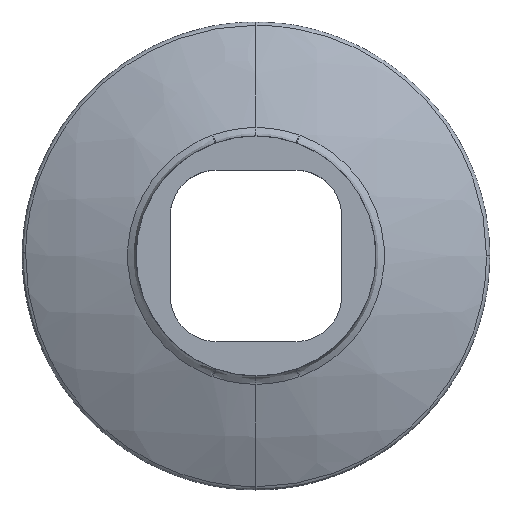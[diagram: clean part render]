
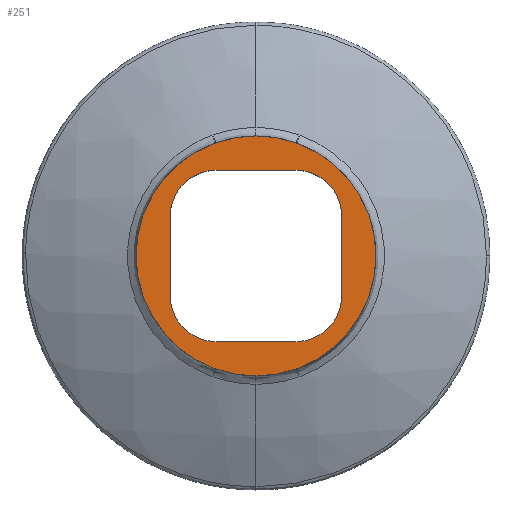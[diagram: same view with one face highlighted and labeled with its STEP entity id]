
A CAD part, top view. The second image highlights one B-rep face of the part: STEP entity #251.
In plain terms, the highlighted planar face has unit normal (0, 0, 1).
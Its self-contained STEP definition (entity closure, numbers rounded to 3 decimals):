
#132=LINE('',#2573,#156);
#138=LINE('',#2589,#162);
#142=LINE('',#2601,#166);
#146=LINE('',#2613,#170);
#156=VECTOR('',#851,1.);
#162=VECTOR('',#865,1.);
#166=VECTOR('',#877,1.);
#170=VECTOR('',#889,1.);
#189=PLANE('',#827);
#198=FACE_BOUND('',#344,.T.);
#199=FACE_BOUND('',#345,.T.);
#203=CIRCLE('',#801,4.);
#205=CIRCLE('',#805,4.);
#207=CIRCLE('',#809,4.);
#209=CIRCLE('',#813,4.);
#211=CIRCLE('',#819,10.5);
#212=CIRCLE('',#821,10.5);
#213=CIRCLE('',#823,10.5);
#214=CIRCLE('',#825,10.5);
#251=ADVANCED_FACE('',(#198,#199),#189,.T.);
#344=EDGE_LOOP('',(#476,#477,#478,#479,#480,#481,#482,#483));
#345=EDGE_LOOP('',(#484,#485,#486,#487,#488,#489,#490,#491));
#476=ORIENTED_EDGE('',*,*,#654,.F.);
#477=ORIENTED_EDGE('',*,*,#659,.F.);
#478=ORIENTED_EDGE('',*,*,#662,.F.);
#479=ORIENTED_EDGE('',*,*,#665,.F.);
#480=ORIENTED_EDGE('',*,*,#668,.F.);
#481=ORIENTED_EDGE('',*,*,#671,.F.);
#482=ORIENTED_EDGE('',*,*,#674,.F.);
#483=ORIENTED_EDGE('',*,*,#676,.F.);
#484=ORIENTED_EDGE('',*,*,#691,.F.);
#485=ORIENTED_EDGE('',*,*,#713,.F.);
#486=ORIENTED_EDGE('',*,*,#710,.F.);
#487=ORIENTED_EDGE('',*,*,#707,.F.);
#488=ORIENTED_EDGE('',*,*,#704,.F.);
#489=ORIENTED_EDGE('',*,*,#701,.F.);
#490=ORIENTED_EDGE('',*,*,#697,.F.);
#491=ORIENTED_EDGE('',*,*,#694,.F.);
#588=VERTEX_POINT('',#2571);
#590=VERTEX_POINT('',#2574);
#593=VERTEX_POINT('',#2582);
#595=VERTEX_POINT('',#2588);
#597=VERTEX_POINT('',#2594);
#599=VERTEX_POINT('',#2600);
#601=VERTEX_POINT('',#2606);
#603=VERTEX_POINT('',#2612);
#614=VERTEX_POINT('',#4093);
#616=VERTEX_POINT('',#4112);
#618=VERTEX_POINT('',#4123);
#620=VERTEX_POINT('',#4138);
#622=VERTEX_POINT('',#4165);
#625=VERTEX_POINT('',#4179);
#627=VERTEX_POINT('',#4206);
#629=VERTEX_POINT('',#4221);
#654=EDGE_CURVE('',#588,#590,#132,.T.);
#659=EDGE_CURVE('',#593,#588,#203,.T.);
#662=EDGE_CURVE('',#595,#593,#138,.T.);
#665=EDGE_CURVE('',#597,#595,#205,.T.);
#668=EDGE_CURVE('',#599,#597,#142,.T.);
#671=EDGE_CURVE('',#601,#599,#207,.T.);
#674=EDGE_CURVE('',#603,#601,#146,.T.);
#676=EDGE_CURVE('',#590,#603,#209,.T.);
#691=EDGE_CURVE('',#616,#614,#765,.T.);
#694=EDGE_CURVE('',#614,#618,#211,.T.);
#697=EDGE_CURVE('',#618,#620,#769,.T.);
#701=EDGE_CURVE('',#620,#622,#212,.T.);
#704=EDGE_CURVE('',#622,#625,#774,.T.);
#707=EDGE_CURVE('',#625,#627,#213,.T.);
#710=EDGE_CURVE('',#627,#629,#778,.T.);
#713=EDGE_CURVE('',#629,#616,#214,.T.);
#765=B_SPLINE_CURVE_WITH_KNOTS('',3,(#4113,#4114,#4115,#4116),.UNSPECIFIED.,
 .F.,.F.,(4,4),(0.,1.),.UNSPECIFIED.);
#769=B_SPLINE_CURVE_WITH_KNOTS('',3,(#4155,#4156,#4157,#4158),.UNSPECIFIED.,
 .F.,.F.,(4,4),(0.,1.),.UNSPECIFIED.);
#774=B_SPLINE_CURVE_WITH_KNOTS('',3,(#4196,#4197,#4198,#4199),.UNSPECIFIED.,
 .F.,.F.,(4,4),(0.,1.),.UNSPECIFIED.);
#778=B_SPLINE_CURVE_WITH_KNOTS('',3,(#4238,#4239,#4240,#4241),.UNSPECIFIED.,
 .F.,.F.,(4,4),(0.,1.),.UNSPECIFIED.);
#801=AXIS2_PLACEMENT_3D('',#2583,#859,#860);
#805=AXIS2_PLACEMENT_3D('',#2595,#871,#872);
#809=AXIS2_PLACEMENT_3D('',#2607,#883,#884);
#813=AXIS2_PLACEMENT_3D('',#2616,#894,#895);
#819=AXIS2_PLACEMENT_3D('',#4134,#910,#911);
#821=AXIS2_PLACEMENT_3D('',#4175,#917,#918);
#823=AXIS2_PLACEMENT_3D('',#4217,#924,#925);
#825=AXIS2_PLACEMENT_3D('',#4255,#930,#931);
#827=AXIS2_PLACEMENT_3D('',#4257,#934,#935);
#851=DIRECTION('',(-1.,0.,0.));
#859=DIRECTION('',(0.,0.,1.));
#860=DIRECTION('',(1.,0.,0.));
#865=DIRECTION('',(0.,1.,0.));
#871=DIRECTION('',(0.,0.,1.));
#872=DIRECTION('',(1.,0.,0.));
#877=DIRECTION('',(1.,0.,0.));
#883=DIRECTION('',(0.,0.,1.));
#884=DIRECTION('',(1.,0.,0.));
#889=DIRECTION('',(0.,-1.,0.));
#894=DIRECTION('',(0.,0.,1.));
#895=DIRECTION('',(1.,0.,0.));
#910=DIRECTION('',(0.,0.,-1.));
#911=DIRECTION('',(1.,0.,0.));
#917=DIRECTION('',(0.,0.,-1.));
#918=DIRECTION('',(1.,0.,0.));
#924=DIRECTION('',(0.,0.,-1.));
#925=DIRECTION('',(1.,0.,0.));
#930=DIRECTION('',(0.,0.,-1.));
#931=DIRECTION('',(1.,0.,0.));
#934=DIRECTION('',(0.,0.,1.));
#935=DIRECTION('',(1.,0.,0.));
#2571=CARTESIAN_POINT('',(93.288,72.5,53.4));
#2573=CARTESIAN_POINT('',(93.339,72.5,53.4));
#2574=CARTESIAN_POINT('',(86.288,72.5,53.4));
#2582=CARTESIAN_POINT('',(97.288,68.5,53.4));
#2583=CARTESIAN_POINT('',(93.288,68.5,53.4));
#2588=CARTESIAN_POINT('',(97.288,61.5,53.4));
#2589=CARTESIAN_POINT('',(97.288,74.882,53.4));
#2594=CARTESIAN_POINT('',(93.288,57.5,53.4));
#2595=CARTESIAN_POINT('',(93.288,61.5,53.4));
#2600=CARTESIAN_POINT('',(86.288,57.5,53.4));
#2601=CARTESIAN_POINT('',(93.339,57.5,53.4));
#2606=CARTESIAN_POINT('',(82.288,61.5,53.4));
#2607=CARTESIAN_POINT('',(86.288,61.5,53.4));
#2612=CARTESIAN_POINT('',(82.288,68.5,53.4));
#2613=CARTESIAN_POINT('',(82.288,74.882,53.4));
#2616=CARTESIAN_POINT('',(86.288,68.5,53.4));
#4093=CARTESIAN_POINT('',(93.388,74.864,53.4));
#4112=CARTESIAN_POINT('',(93.288,74.899,53.4));
#4113=CARTESIAN_POINT('',(93.288,74.899,53.4));
#4114=CARTESIAN_POINT('',(93.322,74.888,53.4));
#4115=CARTESIAN_POINT('',(93.355,74.876,53.4));
#4116=CARTESIAN_POINT('',(93.388,74.864,53.4));
#4123=CARTESIAN_POINT('',(93.388,55.136,53.4));
#4134=CARTESIAN_POINT('',(89.788,65.,53.4));
#4138=CARTESIAN_POINT('',(93.288,55.101,53.4));
#4155=CARTESIAN_POINT('',(93.388,55.136,53.4));
#4156=CARTESIAN_POINT('',(93.355,55.124,53.4));
#4157=CARTESIAN_POINT('',(93.322,55.112,53.4));
#4158=CARTESIAN_POINT('',(93.288,55.101,53.4));
#4165=CARTESIAN_POINT('',(86.288,55.101,53.4));
#4175=CARTESIAN_POINT('',(89.788,65.,53.4));
#4179=CARTESIAN_POINT('',(86.188,55.136,53.4));
#4196=CARTESIAN_POINT('',(86.288,55.101,53.4));
#4197=CARTESIAN_POINT('',(86.255,55.112,53.4));
#4198=CARTESIAN_POINT('',(86.222,55.124,53.4));
#4199=CARTESIAN_POINT('',(86.188,55.136,53.4));
#4206=CARTESIAN_POINT('',(86.188,74.864,53.4));
#4217=CARTESIAN_POINT('',(89.788,65.,53.4));
#4221=CARTESIAN_POINT('',(86.288,74.899,53.4));
#4238=CARTESIAN_POINT('',(86.188,74.864,53.4));
#4239=CARTESIAN_POINT('',(86.222,74.876,53.4));
#4240=CARTESIAN_POINT('',(86.255,74.888,53.4));
#4241=CARTESIAN_POINT('',(86.288,74.899,53.4));
#4255=CARTESIAN_POINT('',(89.788,65.,53.4));
#4257=CARTESIAN_POINT('',(93.339,74.882,53.4));
